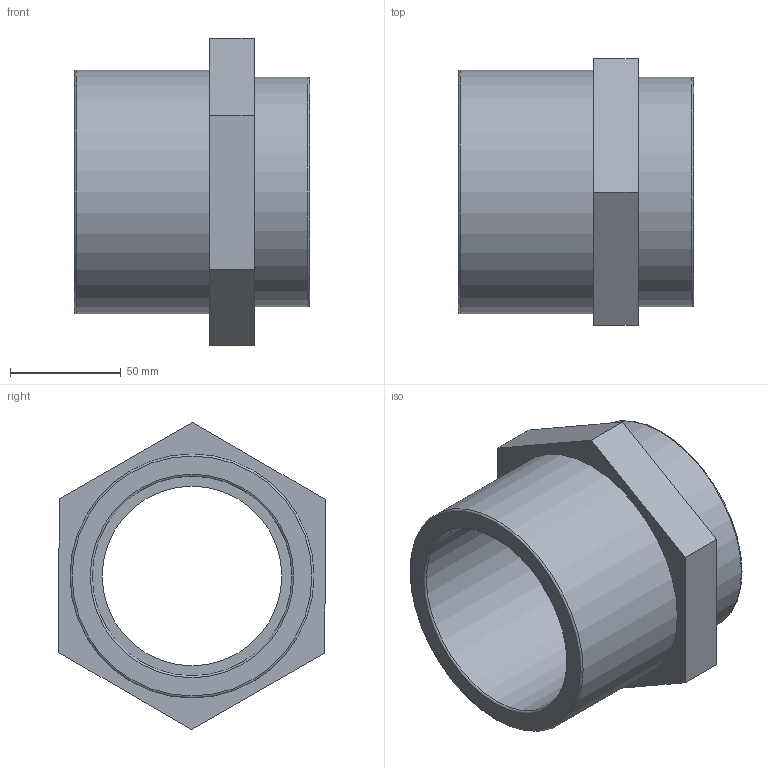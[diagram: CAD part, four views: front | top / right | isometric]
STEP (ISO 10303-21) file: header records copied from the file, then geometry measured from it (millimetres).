
FILE_DESCRIPTION(/* description */ ('PLASSON REDUCER THR-CEM PVC 110(90)3"F'),/* implementation_level */ '2;1');
FILE_NAME(/* name */ 'C:\Dropbox\KIMPROJECTS-Inventor\99-16-3568-Processing\PVC Catalog 2017\050202\050202110030.ipt.stp',/* time_stamp */ '2017-12-07T15:53:57+02:00',/* author */ ('KIM'),/* organization */ (''),/* preprocessor_version */ 'ST-DEVELOPER v15.6',/* originating_system */ 'Autodesk Inventor 2015',/* authorisation */ '');
FILE_SCHEMA (('AUTOMOTIVE_DESIGN { 1 0 10303 214 3 1 1 }'));
Length unit declared in the file: millimetre
Products named in the file (1): 050202110030
Bounding box: 106 x 120.18 x 138.56 mm (x, y, z)
Volume: 395879.1 mm3; surface area: 80945.1 mm2
Topology: 1 solids, 1 shells, 21 faces, 41 edges, 26 vertices
Faces by surface type: plane 12, cylinder 5, torus 4
Full cylindrical faces by diameter (mm): 81 x1, 84.926 x1, 90 x1, 103.5 x1, 110 x1
Entity records: 520 total; most frequent: DIRECTION 90, CARTESIAN_POINT 80, ORIENTED_EDGE 64, EDGE_LOOP 36, AXIS2_PLACEMENT_3D 36, EDGE_CURVE 32, VERTEX_POINT 26, FACE_OUTER_BOUND 21
